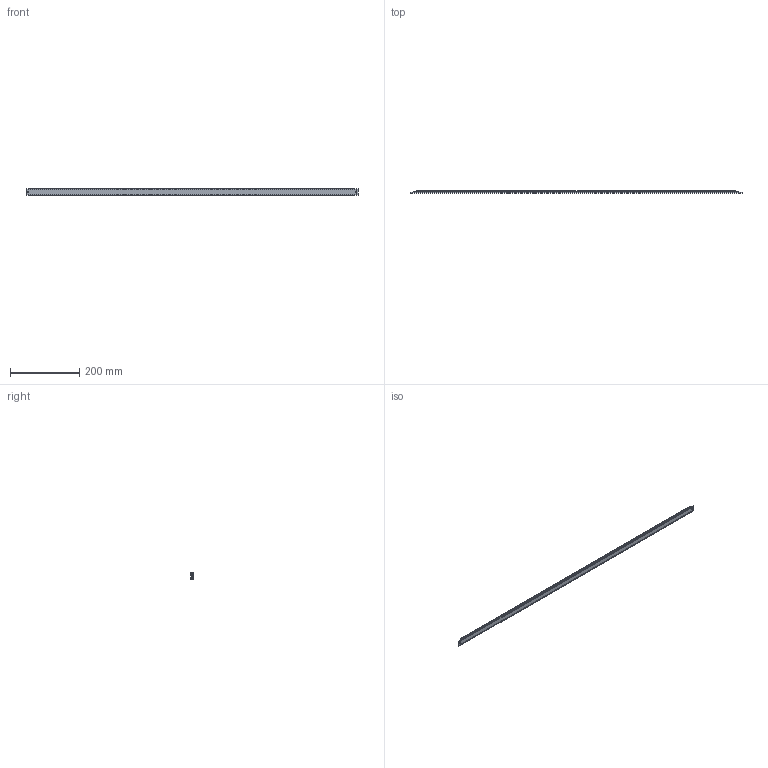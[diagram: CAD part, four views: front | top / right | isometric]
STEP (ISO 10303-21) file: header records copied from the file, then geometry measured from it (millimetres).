
FILE_DESCRIPTION (( 'STEP AP214' ), '1' );
FILE_NAME ('HLMScale.ScaleLength960.STEP', '2023-02-07T05:56:00', ( '' ), ( '' ), 'SwSTEP 2.0', 'SolidWorks 2020', '' );
FILE_SCHEMA (( 'AUTOMOTIVE_DESIGN' ));
Length unit declared in the file: millimetre
Products named in the file (1): HLMScale.ScaleLength960
Bounding box: 960 x 6.08 x 18 mm (x, y, z)
Volume: 96283.4 mm3; surface area: 52987 mm2
Topology: 1 solids, 1 shells, 56 faces, 149 edges, 98 vertices
Faces by surface type: plane 31, cylinder 25
Entity records: 1857 total; most frequent: CARTESIAN_POINT 412, ORIENTED_EDGE 298, DIRECTION 285, EDGE_CURVE 149, VECTOR 103, LINE 103, VERTEX_POINT 98, AXIS2_PLACEMENT_3D 91
